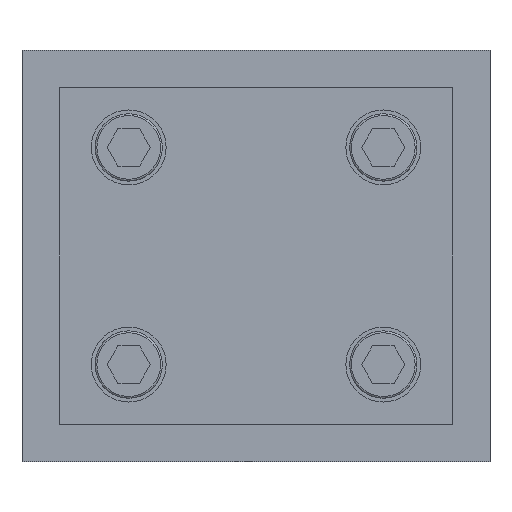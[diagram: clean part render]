
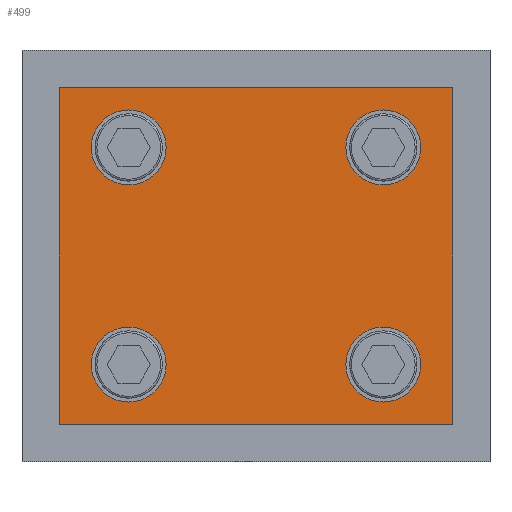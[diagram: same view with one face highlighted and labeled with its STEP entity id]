
A CAD part, left-side view. The second image highlights one B-rep face of the part: STEP entity #499.
In plain terms, the highlighted planar face has unit normal (-1, 0, 0).
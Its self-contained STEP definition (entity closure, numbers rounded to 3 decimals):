
#499=ADVANCED_FACE('',(#918,#919,#920,#921,#922),#692,.T.);
#692=PLANE('',#4312);
#918=FACE_BOUND('',#1244,.T.);
#919=FACE_BOUND('',#1245,.T.);
#920=FACE_BOUND('',#1246,.T.);
#921=FACE_BOUND('',#1247,.T.);
#922=FACE_BOUND('',#1248,.T.);
#1244=EDGE_LOOP('',(#2156));
#1245=EDGE_LOOP('',(#2157));
#1246=EDGE_LOOP('',(#2158));
#1247=EDGE_LOOP('',(#2159));
#1248=EDGE_LOOP('',(#2160,#2161,#2162,#2163));
#1544=CIRCLE('',#4308,10.);
#1545=CIRCLE('',#4309,10.);
#1546=CIRCLE('',#4310,10.);
#1547=CIRCLE('',#4311,10.);
#2156=ORIENTED_EDGE('',*,*,#3235,.T.);
#2157=ORIENTED_EDGE('',*,*,#3236,.T.);
#2158=ORIENTED_EDGE('',*,*,#3237,.T.);
#2159=ORIENTED_EDGE('',*,*,#3238,.T.);
#2160=ORIENTED_EDGE('',*,*,#3225,.F.);
#2161=ORIENTED_EDGE('',*,*,#3229,.F.);
#2162=ORIENTED_EDGE('',*,*,#3232,.F.);
#2163=ORIENTED_EDGE('',*,*,#3234,.F.);
#2791=VERTEX_POINT('',#6262);
#2792=VERTEX_POINT('',#6264);
#2794=VERTEX_POINT('',#6270);
#2796=VERTEX_POINT('',#6276);
#2797=VERTEX_POINT('',#6283);
#2798=VERTEX_POINT('',#6285);
#2799=VERTEX_POINT('',#6287);
#2800=VERTEX_POINT('',#6289);
#3225=EDGE_CURVE('',#2791,#2792,#3605,.T.);
#3229=EDGE_CURVE('',#2794,#2791,#3609,.T.);
#3232=EDGE_CURVE('',#2796,#2794,#3612,.T.);
#3234=EDGE_CURVE('',#2792,#2796,#3614,.T.);
#3235=EDGE_CURVE('',#2797,#2797,#1544,.T.);
#3236=EDGE_CURVE('',#2798,#2798,#1545,.T.);
#3237=EDGE_CURVE('',#2799,#2799,#1546,.T.);
#3238=EDGE_CURVE('',#2800,#2800,#1547,.T.);
#3605=LINE('',#6263,#3921);
#3609=LINE('',#6271,#3925);
#3612=LINE('',#6277,#3928);
#3614=LINE('',#6280,#3930);
#3921=VECTOR('',#5118,1.);
#3925=VECTOR('',#5124,1.);
#3928=VECTOR('',#5129,1.);
#3930=VECTOR('',#5133,1.);
#4308=AXIS2_PLACEMENT_3D('',#6282,#5136,#5137);
#4309=AXIS2_PLACEMENT_3D('',#6284,#5138,#5139);
#4310=AXIS2_PLACEMENT_3D('',#6286,#5140,#5141);
#4311=AXIS2_PLACEMENT_3D('',#6288,#5142,#5143);
#4312=AXIS2_PLACEMENT_3D('',#6290,#5144,#5145);
#5118=DIRECTION('',(0.,0.,-1.));
#5124=DIRECTION('',(0.,-1.,0.));
#5129=DIRECTION('',(0.,0.,1.));
#5133=DIRECTION('',(0.,1.,0.));
#5136=DIRECTION('',(1.,0.,0.));
#5137=DIRECTION('',(0.,-1.,0.));
#5138=DIRECTION('',(1.,0.,0.));
#5139=DIRECTION('',(0.,-1.,0.));
#5140=DIRECTION('',(1.,0.,0.));
#5141=DIRECTION('',(0.,-1.,0.));
#5142=DIRECTION('',(1.,0.,0.));
#5143=DIRECTION('',(0.,-1.,0.));
#5144=DIRECTION('',(-1.,0.,0.));
#5145=DIRECTION('',(0.,0.,1.));
#6262=CARTESIAN_POINT('',(-122.5,-52.5,100.));
#6263=CARTESIAN_POINT('',(-122.5,-52.5,10.));
#6264=CARTESIAN_POINT('',(-122.5,-52.5,10.));
#6270=CARTESIAN_POINT('',(-122.5,52.5,100.));
#6271=CARTESIAN_POINT('',(-122.5,-52.5,100.));
#6276=CARTESIAN_POINT('',(-122.5,52.5,10.));
#6277=CARTESIAN_POINT('',(-122.5,52.5,100.));
#6280=CARTESIAN_POINT('',(-122.5,52.5,10.));
#6282=CARTESIAN_POINT('',(-122.5,34.,26.));
#6283=CARTESIAN_POINT('',(-122.5,24.,26.));
#6284=CARTESIAN_POINT('',(-122.5,-34.,26.));
#6285=CARTESIAN_POINT('',(-122.5,-44.,26.));
#6286=CARTESIAN_POINT('',(-122.5,-34.,84.));
#6287=CARTESIAN_POINT('',(-122.5,-44.,84.));
#6288=CARTESIAN_POINT('',(-122.5,34.,84.));
#6289=CARTESIAN_POINT('',(-122.5,24.,84.));
#6290=CARTESIAN_POINT('',(-122.5,0.,0.));
